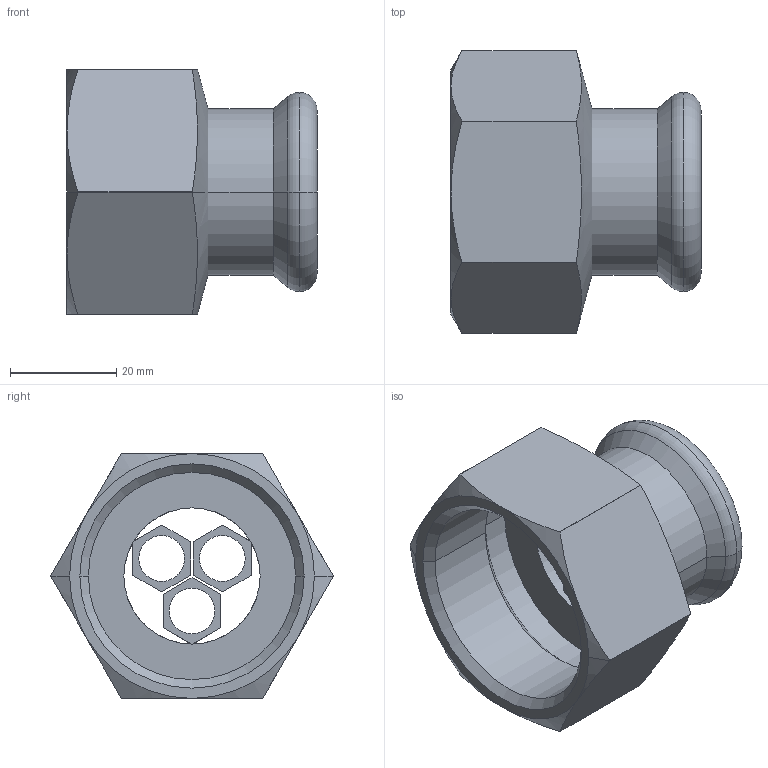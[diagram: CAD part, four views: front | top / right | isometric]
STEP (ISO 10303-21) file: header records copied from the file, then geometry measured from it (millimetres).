
FILE_DESCRIPTION(('OneSpaceDesigner STEP Export'),'2;1');
FILE_NAME('R2702 28xRp1 1-4.stp','2010-06-08T14:23:05',(''),(''),'OneSpace Designer STEP processor for AP214 (Solid Model)','OneSpace Modeling 15.00A 14-Mar-2007 (C) CoCreate Software GmbH','');
FILE_SCHEMA(('AUTOMOTIVE_DESIGN { 1 0 10303 214 1 1 1 1 }'));
Length unit declared in the file: millimetre
Products named in the file (2): R2702_28xRp1.1-4
Assembly tree (1 placements, depth 2):
  R2702_28xRp1.1-4
    R2702_28xRp1.1-4
Bounding box: 47 x 53.1 x 46 mm (x, y, z)
Volume: 22152.3 mm3; surface area: 14691.9 mm2
Topology: 1 solids, 1 shells, 85 faces, 215 edges, 134 vertices
Faces by surface type: plane 34, cylinder 29, cone 18, torus 4
Entity records: 3054 total; most frequent: CARTESIAN_POINT 1234, ORIENTED_EDGE 430, DIRECTION 287, EDGE_CURVE 215, VERTEX_POINT 134, VECTOR 113, LINE 113, EDGE_LOOP 95
